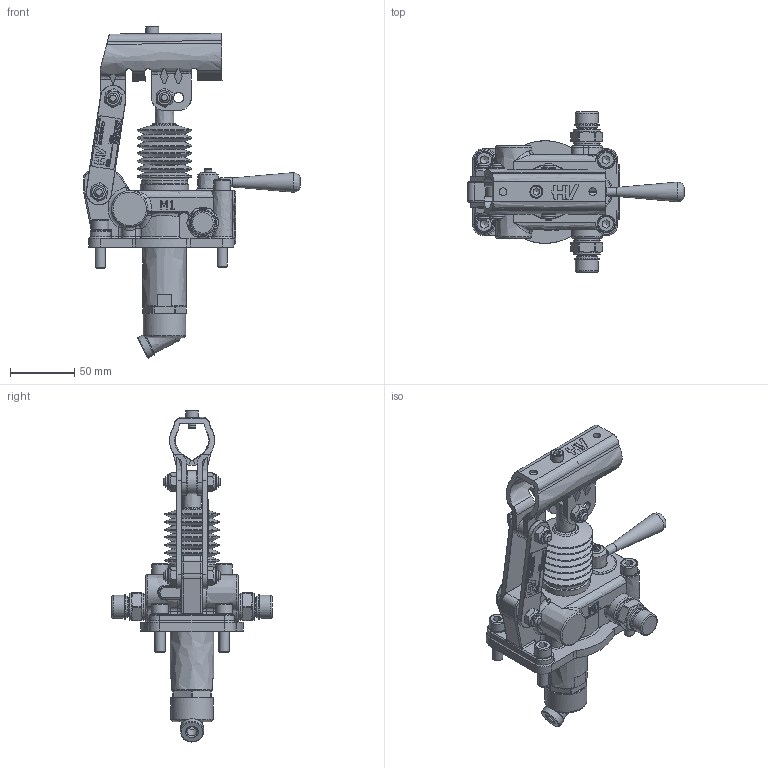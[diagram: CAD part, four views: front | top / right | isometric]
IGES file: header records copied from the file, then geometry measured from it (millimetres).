
Global section: file name: No Iges File Name specified; native system: Autodesk Inventor 2013; preprocessor: AutoDesk Inventor Iges Exporter R2013; author: christian.scardovi; date: 20240229.154455; units: millimetre
Bounding box: 169 x 125 x 258.8 mm (x, y, z)
Volume: 478422.7 mm3; surface area: 115936.9 mm2
Topology: 3 solids, 3 shells, 1469 faces, 3714 edges, 2358 vertices
Faces by surface type: bspline 1469
